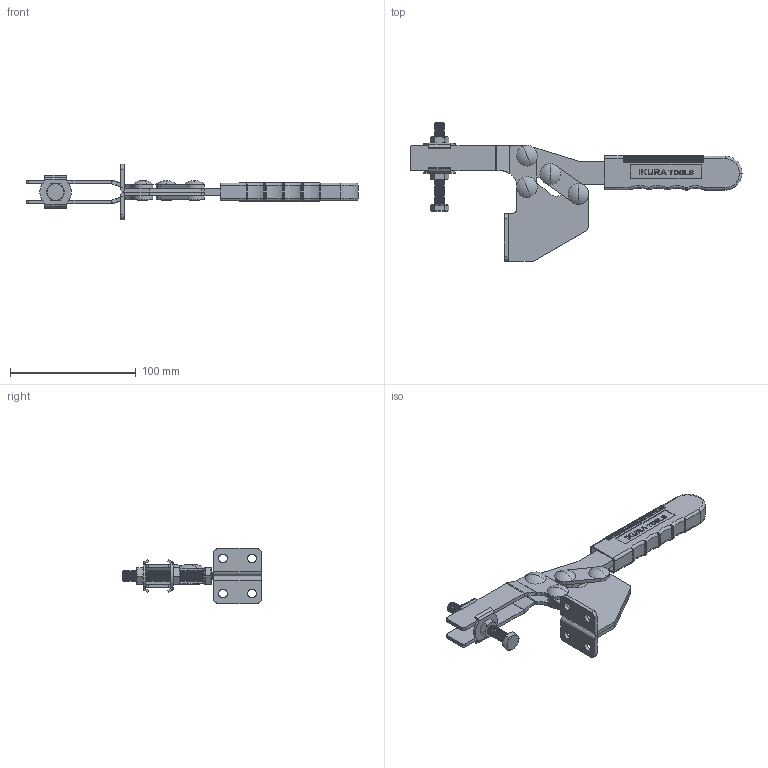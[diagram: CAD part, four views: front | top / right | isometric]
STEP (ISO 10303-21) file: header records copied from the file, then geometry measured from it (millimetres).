
FILE_DESCRIPTION (( 'STEP AP214' ), '1' );
FILE_NAME ('ISK-38C‘å0.STEP', '2015-07-01T01:21:32', ( '' ), ( '' ), 'SwSTEP 2.0', 'SolidWorks 2015', '' );
FILE_SCHEMA (( 'AUTOMOTIVE_DESIGN' ));
Length unit declared in the file: millimetre
Products named in the file (10): Grip; Link; Handle; Arm; Base; ISK-38C大0; flat round head rivets gb_GB_RIVETS_ROUND_TYPE83 8X13; hexagon nut_3_jis_JIS B 1181 Hexagon nut - Class 3 Finished M8 --N; continuous thread hexagon head bolt_a_jis_JIS B 1180 Continuous thread hexagon head bolt A M8 x 65 --S; Washer_D8-20
Assembly tree (15 placements, depth 2):
  ISK-38C大0
    Base
    Arm
    Handle
    Link  x2
    Grip
    Washer_D8-20  x2
    continuous thread hexagon head bolt_a_jis_JIS B 1180 Continuous thread hexagon head bolt A M8 x 65 --S
    hexagon nut_3_jis_JIS B 1181 Hexagon nut - Class 3 Finished M8 --N  x2
    flat round head rivets gb_GB_RIVETS_ROUND_TYPE83 8X13  x4
Bounding box: 264.1 x 110.33 x 44 mm (x, y, z)
Volume: 93966.5 mm3; surface area: 62044.3 mm2
Topology: 17 solids, 17 shells, 1806 faces, 4928 edges, 3176 vertices
Faces by surface type: plane 865, cylinder 505, cone 244, bspline 146, sphere 24, torus 22
Entity records: 61118 total; most frequent: CARTESIAN_POINT 16815, ORIENTED_EDGE 9448, DIRECTION 8902, EDGE_CURVE 4724, VERTEX_POINT 3063, VECTOR 3058, LINE 3058, AXIS2_PLACEMENT_3D 2922
